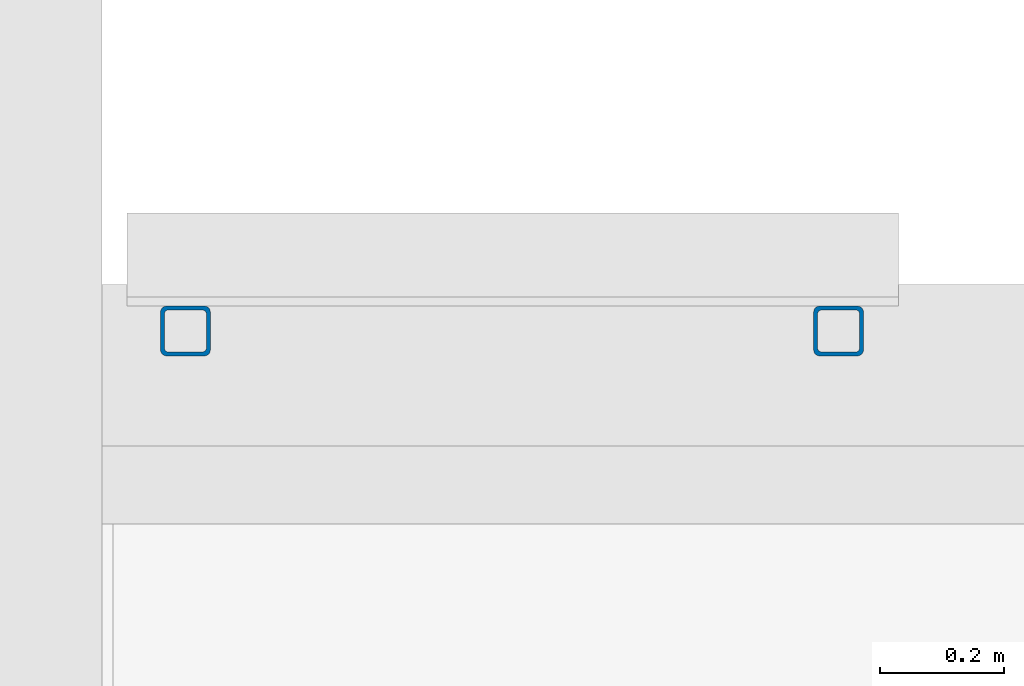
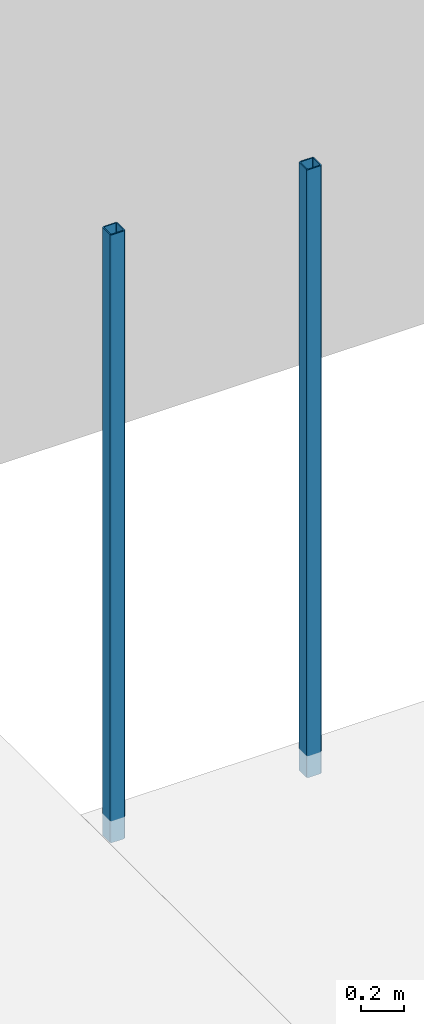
# One storey, part 9 of 37: 2 columns.
"""IFC2X3 building model written with IfcOpenShell, lengths in millimetres."""

from ifc_helpers import new_model, entity, si_unit, converted_unit, derived_unit, direction, frame, frame_2d, origin, place, context, subcontext, project, spatial, polyline, circle_curve, parameter, trimmed, segment, composite_curve, outline, extrude, source, transform, mapped, material, type_object, type_shapes, element, save


model = new_model("IFC2X3")

# Units and contexts
model_context = context("Model", 3, precision=0.01, world=origin(), true_north=direction((6.12303176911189e-17, 1.0)))
body_context = subcontext(model_context, "Body", "Model", "MODEL_VIEW")
ifc_project = project(units=[si_unit("LENGTHUNIT", "METRE", prefix="MILLI"), si_unit("AREAUNIT", "SQUARE_METRE", prefix="MILLI"), si_unit("VOLUMEUNIT", "CUBIC_METRE"), converted_unit("PLANEANGLEUNIT", "DEGREE", entity("IfcRatioMeasure", 0.0174532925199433), si_unit("PLANEANGLEUNIT", "RADIAN"), dimensions=[0, 0, 0, 0, 0, 0, 0]), si_unit("MASSUNIT", "GRAM", prefix="KILO"), derived_unit("MASSDENSITYUNIT", [(si_unit("MASSUNIT", "GRAM", prefix="KILO"), 1), (si_unit("LENGTHUNIT", "METRE"), -3)]), derived_unit("MOMENTOFINERTIAUNIT", [(si_unit("LENGTHUNIT", "METRE"), 4)]), si_unit("TIMEUNIT", "SECOND"), si_unit("FREQUENCYUNIT", "HERTZ"), si_unit("THERMODYNAMICTEMPERATUREUNIT", "DEGREE_CELSIUS"), derived_unit("THERMALTRANSMITTANCEUNIT", [(si_unit("MASSUNIT", "GRAM", prefix="KILO"), 1), (si_unit("THERMODYNAMICTEMPERATUREUNIT", "KELVIN"), -1), (si_unit("TIMEUNIT", "SECOND"), -3)]), derived_unit("VOLUMETRICFLOWRATEUNIT", [(si_unit("LENGTHUNIT", "METRE"), 3), (si_unit("TIMEUNIT", "SECOND"), -1)]), si_unit("ELECTRICCURRENTUNIT", "AMPERE"), si_unit("ELECTRICVOLTAGEUNIT", "VOLT"), si_unit("POWERUNIT", "WATT"), si_unit("FORCEUNIT", "NEWTON", prefix="KILO"), si_unit("ILLUMINANCEUNIT", "LUX"), si_unit("LUMINOUSFLUXUNIT", "LUMEN"), si_unit("LUMINOUSINTENSITYUNIT", "CANDELA"), derived_unit("USERDEFINED", [(si_unit("MASSUNIT", "GRAM", prefix="KILO"), -1), (si_unit("LENGTHUNIT", "METRE"), -2), (si_unit("TIMEUNIT", "SECOND"), 3), (si_unit("LUMINOUSFLUXUNIT", "LUMEN"), 1)]), derived_unit("LINEARVELOCITYUNIT", [(si_unit("LENGTHUNIT", "METRE"), 1), (si_unit("TIMEUNIT", "SECOND"), -1)]), si_unit("PRESSUREUNIT", "PASCAL"), derived_unit("USERDEFINED", [(si_unit("LENGTHUNIT", "METRE"), -2), (si_unit("MASSUNIT", "GRAM", prefix="KILO"), 1), (si_unit("TIMEUNIT", "SECOND"), -2)]), derived_unit("LINEARFORCEUNIT", [(si_unit("MASSUNIT", "GRAM", prefix="KILO"), 1), (si_unit("LENGTHUNIT", "METRE"), 1), (si_unit("TIMEUNIT", "SECOND"), -2), (si_unit("LENGTHUNIT", "METRE"), -1)]), derived_unit("PLANARFORCEUNIT", [(si_unit("MASSUNIT", "GRAM", prefix="KILO"), 1), (si_unit("LENGTHUNIT", "METRE"), 1), (si_unit("TIMEUNIT", "SECOND"), -2), (si_unit("LENGTHUNIT", "METRE"), -2)])], contexts=[model_context])

# Site, building, storey
site_placement = place(None, origin())
site = spatial("IfcSite", under=ifc_project, at=site_placement, Name="Theater aan de Parade", CompositionType="ELEMENT")
building_placement = place(site_placement, origin())
building = spatial("IfcBuilding", under=site, at=building_placement, Name="Theater aan de Parade", CompositionType="ELEMENT")
storey_placement = place(building_placement, frame((0.0, 0.0, 5020.0)))
storey = spatial("IfcBuildingStorey", under=building, at=storey_placement, Name="01 eerste verdieping", CompositionType="ELEMENT", Elevation=5020.0)

# Columns
ifc_material = material(Name="00_PBT_MAT_staal_S355")
column_type = type_object("IfcColumnType", Name="28_PBT_SC_staal_koker:S355_K80x80x6.3", PredefinedType="COLUMN", material=ifc_material)
shared_shape = source(origin(), body_context, "Body", "SweptSolid", [
    extrude(outline(composite_curve([segment(trimmed(circle_curve(frame_2d((-30.55, -30.55), x_axis=(1.0, 0.0)), 9.45), [parameter(180.0)], [parameter(270.0)], True, "PARAMETER"), True, "CONTINUOUS"), segment(polyline([(-30.55, -40.0), (30.55, -40.0)]), True, "CONTINUOUS"), segment(trimmed(circle_curve(frame_2d((30.55, -30.55), x_axis=(1.0, 0.0)), 9.45), [parameter(270.0)], [parameter(5.08888749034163e-14)], True, "PARAMETER"), True, "CONTINUOUS"), segment(polyline([(40.0, -30.55), (40.0, 30.55)]), True, "CONTINUOUS"), segment(trimmed(circle_curve(frame_2d((30.55, 30.55), x_axis=(1.0, 0.0)), 9.45), [parameter(3.56222124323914e-13)], [parameter(90.0000000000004)], True, "PARAMETER"), True, "CONTINUOUS"), segment(polyline([(30.55, 40.0), (-30.55, 40.0)]), True, "CONTINUOUS"), segment(trimmed(circle_curve(frame_2d((-30.55, 30.55), x_axis=(1.0, 0.0)), 9.45), [parameter(90.0000000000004)], [parameter(180.0)], True, "PARAMETER"), True, "CONTINUOUS"), segment(polyline([(-40.0, 30.55), (-40.0, -30.55)]), True, "CONTINUOUS")], self_intersect=False), holes=[composite_curve([segment(trimmed(circle_curve(frame_2d((27.4, 27.4), x_axis=(1.0, 0.0)), 6.3), [parameter(0.0)], [parameter(90.0000000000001)], True, "PARAMETER"), False, "CONTINUOUS"), segment(polyline([(33.7, 27.4), (33.7, -27.4)]), True, "CONTINUOUS"), segment(trimmed(circle_curve(frame_2d((27.4, -27.4), x_axis=(1.0, 0.0)), 6.3), [parameter(270.0)], [parameter(360.0)], True, "PARAMETER"), False, "CONTINUOUS"), segment(polyline([(27.4, -33.7), (-27.4, -33.7)]), True, "CONTINUOUS"), segment(trimmed(circle_curve(frame_2d((-27.4, -27.4), x_axis=(1.0, 0.0)), 6.3), [parameter(180.0)], [parameter(270.0)], True, "PARAMETER"), False, "CONTINUOUS"), segment(polyline([(-33.7, -27.4), (-33.7, 27.4)]), True, "CONTINUOUS"), segment(trimmed(circle_curve(frame_2d((-27.4, 27.4), x_axis=(1.0, 0.0)), 6.3), [parameter(89.9999999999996)], [parameter(180.0)], True, "PARAMETER"), False, "CONTINUOUS"), segment(polyline([(-27.4, 33.7), (27.4, 33.7)]), True, "CONTINUOUS")], self_intersect=False)]), frame((0.0, 0.0, 4815.0), z_axis=(0.0, 0.0, 1.0), x_axis=(-1.0, 0.0, 0.0)), (0.0, 0.0, 1.0), 3435.0),
])
type_shapes(column_type, [shared_shape])
for number, where in (
    (1, (63167.7650192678, 46551.8631171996, -5020.0)),
    (2, (62117.7650192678, 46551.8631171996, -5020.0)),
):
    element("IfcColumn", number, at=place(storey_placement, frame(where)), inside=storey, type_object=column_type, material=ifc_material, Name="28_PBT_SC_staal_koker:S355_K80x80x6.3", ObjectType="28_PBT_SC_staal_koker:S355_K80x80x6.3", context=body_context, shape_type="MappedRepresentation", body=[
        mapped(shared_shape, transform((0.0, 0.0, 0.0), scale=1.0)),
    ])

save(model, "model.ifc")
